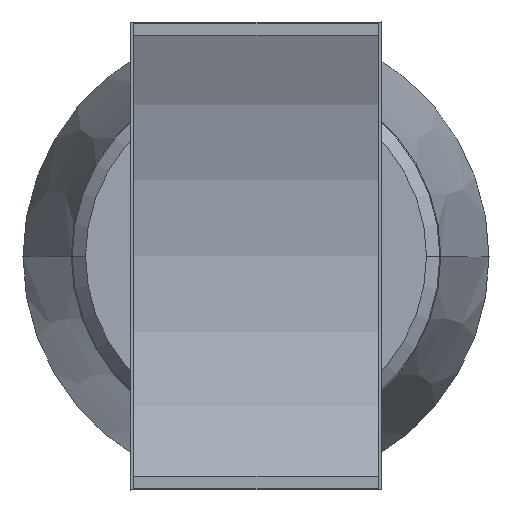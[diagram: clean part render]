
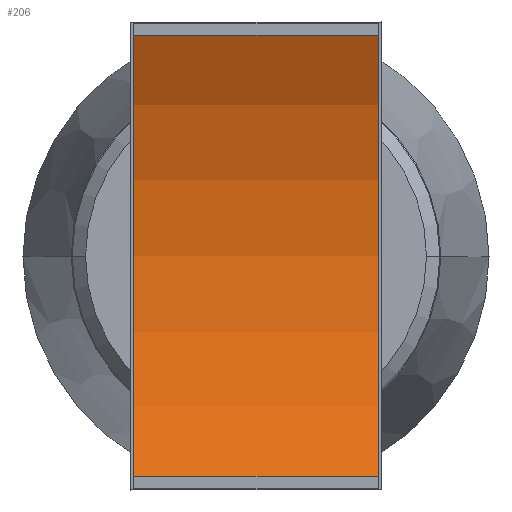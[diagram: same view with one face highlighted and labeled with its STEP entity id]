
A CAD part, top view. The second image highlights one B-rep face of the part: STEP entity #206.
In plain terms, the highlighted cylindrical face has radius 136.5 mm (diameter 273 mm), a partial arc.
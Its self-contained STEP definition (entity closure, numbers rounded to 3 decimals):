
#206=ADVANCED_FACE('',(#505),#506,.F.);
#505=FACE_OUTER_BOUND('',#935,.T.);
#506=CYLINDRICAL_SURFACE('',#936,136.5);
#935=EDGE_LOOP('',(#1339,#1340,#1341,#1342));
#936=AXIS2_PLACEMENT_3D('',#1343,#1344,#1345);
#1339=ORIENTED_EDGE('',*,*,#2472,.T.);
#1340=ORIENTED_EDGE('',*,*,#2473,.F.);
#1341=ORIENTED_EDGE('',*,*,#2474,.T.);
#1342=ORIENTED_EDGE('',*,*,#2469,.T.);
#1343=CARTESIAN_POINT('',(469.549,465.63,145.25));
#1344=DIRECTION('',(-1.0,0.,0.));
#1345=DIRECTION('',(0.,-1.0,0.));
#2469=EDGE_CURVE('',#2920,#2918,#2921,.T.);
#2472=EDGE_CURVE('',#2918,#2924,#2925,.T.);
#2473=EDGE_CURVE('',#2926,#2924,#2927,.T.);
#2474=EDGE_CURVE('',#2926,#2920,#2928,.T.);
#2918=VERTEX_POINT('',#3570);
#2920=VERTEX_POINT('',#3573);
#2921=LINE('',#3574,#3575);
#2924=VERTEX_POINT('',#3579);
#2925=CIRCLE('',#3580,136.5);
#2926=VERTEX_POINT('',#3581);
#2927=LINE('',#3582,#3583);
#2928=CIRCLE('',#3584,136.5);
#3570=CARTESIAN_POINT('',(396.549,531.6,25.75));
#3573=CARTESIAN_POINT('',(469.549,531.6,25.75));
#3574=CARTESIAN_POINT('',(469.549,531.6,25.75));
#3575=VECTOR('',#5125,1.0);
#3579=CARTESIAN_POINT('',(396.549,399.66,25.75));
#3580=AXIS2_PLACEMENT_3D('',#5127,#5128,#5129);
#3581=CARTESIAN_POINT('',(469.549,399.66,25.75));
#3582=CARTESIAN_POINT('',(469.549,399.66,25.75));
#3583=VECTOR('',#5130,1.0);
#3584=AXIS2_PLACEMENT_3D('',#5131,#5132,#5133);
#5125=DIRECTION('',(-1.0,0.,0.));
#5127=CARTESIAN_POINT('',(396.549,465.63,145.25));
#5128=DIRECTION('',(-1.0,0.,0.));
#5129=DIRECTION('',(0.,-1.0,0.));
#5130=DIRECTION('',(-1.0,0.,0.));
#5131=CARTESIAN_POINT('',(469.549,465.63,145.25));
#5132=DIRECTION('',(1.0,0.,0.));
#5133=DIRECTION('',(0.,-1.0,0.));
